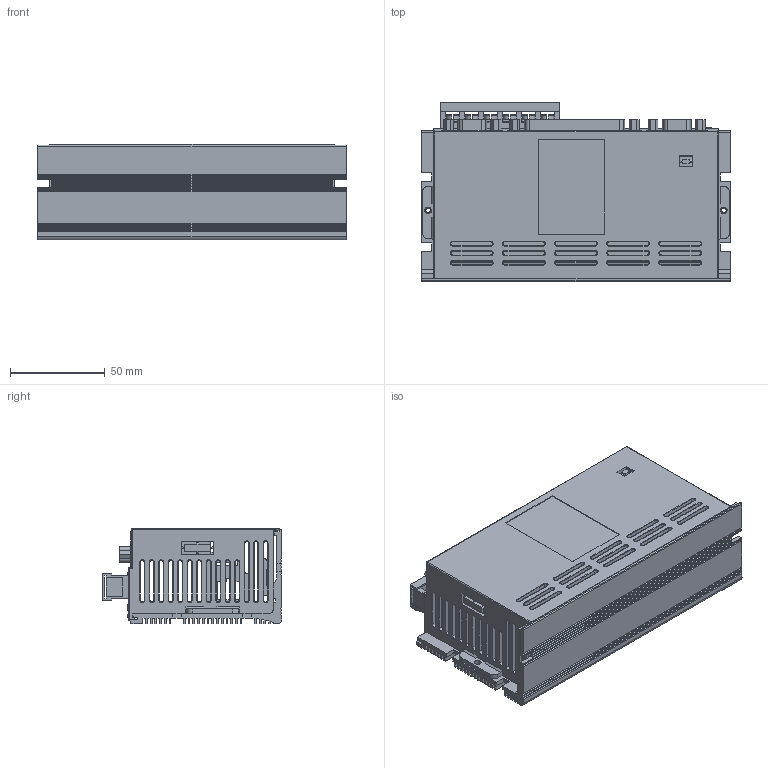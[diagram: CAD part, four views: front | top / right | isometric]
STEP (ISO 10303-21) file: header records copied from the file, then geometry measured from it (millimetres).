
FILE_DESCRIPTION( ( 'Unknown' ), '1' );
FILE_NAME( 'D:/20170123擎翔馬達圖面整理/20170123/CSBL/CSBL驅動器/客戶端_980/980驅動器_組立件.stp', 'Unknown', ( 'Unknown' ), ( 'Unknown' ), 'PSStep 17.0.49', 'Unknown', ' ' );
FILE_SCHEMA( ( 'AUTOMOTIVE_DESIGN { 1 0 10303 214 1 1 1 1 }' ) );
Length unit declared in the file: millimetre
Products named in the file (3): Assem1; 塑膠外殼+接頭; 980鋁擠型
Assembly tree (2 placements, depth 2):
  Assem1
    塑膠外殼+接頭
    980鋁擠型
Bounding box: 163 x 94.59 x 50.5 mm (x, y, z)
Volume: 132653.3 mm3; surface area: 136444.5 mm2
Topology: 2 solids, 2 shells, 2206 faces, 5726 edges, 3587 vertices
Faces by surface type: plane 1162, cylinder 508, bspline 265, cone 147, revolution 112, torus 12
Full cylindrical faces by diameter (mm): 0.5 x5, 1 x61, 2 x6, 2.5 x2, 4.105 x5
Entity records: 101772 total; most frequent: CARTESIAN_POINT 34746, ORIENTED_EDGE 11004, DIRECTION 8601, EDGE_CURVE 5502, VERTEX_POINT 3575, LINE 3243, VECTOR 3243, AXIS2_PLACEMENT_3D 2623
